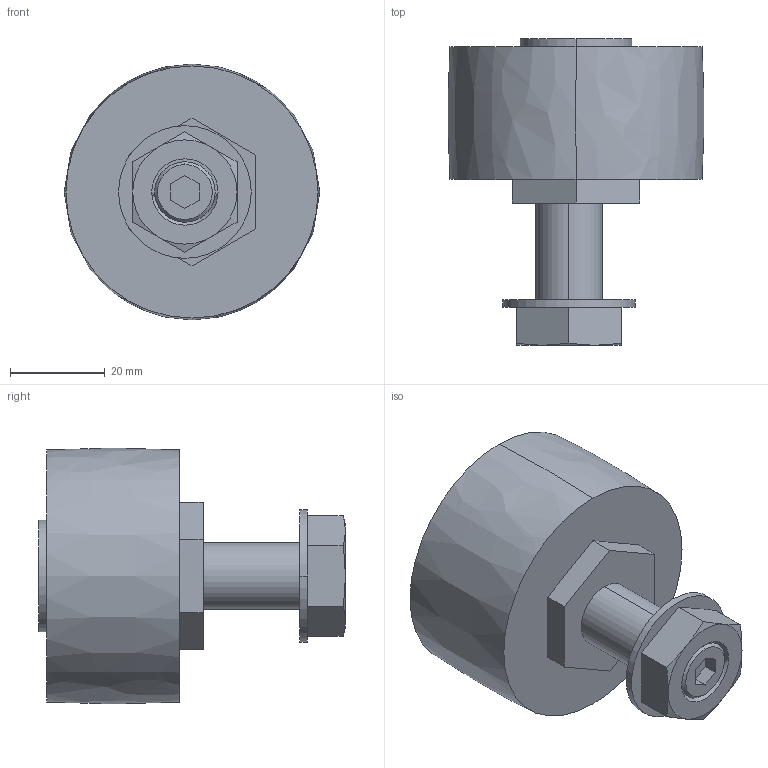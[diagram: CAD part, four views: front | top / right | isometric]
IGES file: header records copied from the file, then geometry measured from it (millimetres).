
Start section: 3D InterOp IGES (v. 2019 1.0.2), Spatial Corp. Copyright (c) 1999-2017.
Global section: file name: LR 54 E.igs; native system: Spatial Corp.; preprocessor: 3D InterOp GENERIC/IGES 3.0; author: Noname; organization: Noname; date: 20220628.172233; units: millimetre
Bounding box: 53.91 x 64.7 x 54 mm (x, y, z)
Surface area: 12466.6 mm2 (no closed solid volume)
Topology: 0 solids, 0 shells, 52 faces, 268 edges, 268 vertices
Faces by surface type: extrusion 34, revolution 16, bspline 2
